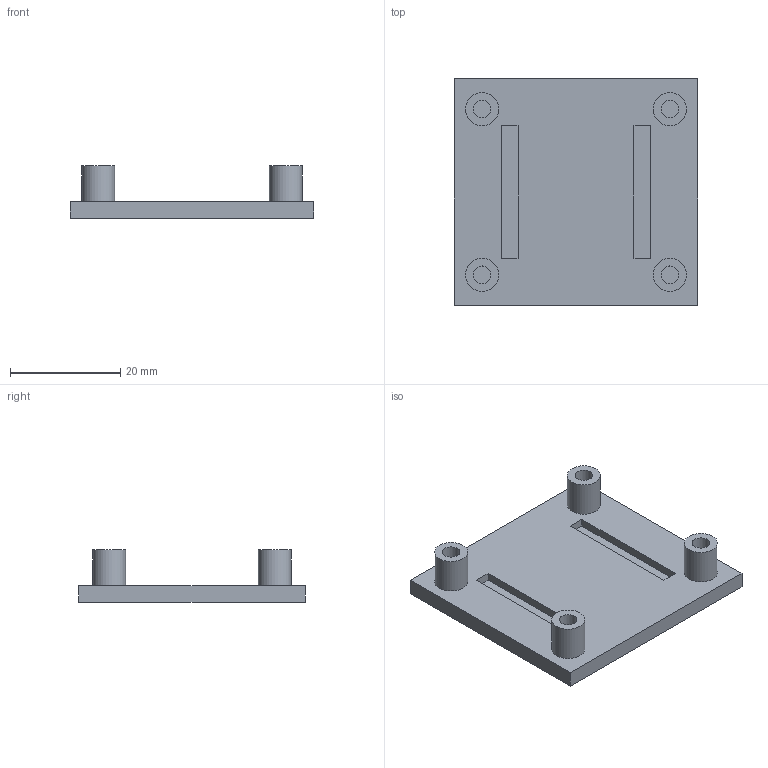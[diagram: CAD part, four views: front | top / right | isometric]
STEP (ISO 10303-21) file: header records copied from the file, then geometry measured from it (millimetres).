
FILE_DESCRIPTION(('Open CASCADE Model'),'2;1');
FILE_NAME('Open CASCADE Shape Model','2026-09-10T23:36:53',('Author'),( 'Open CASCADE'),'Open CASCADE STEP processor 7.9','Open CASCADE 7.9' ,'Unknown');
FILE_SCHEMA(('AUTOMOTIVE_DESIGN { 1 0 10303 214 1 1 1 1 }'));
Length unit declared in the file: millimetre
Products named in the file (1): Open CASCADE STEP translator 7.9 6
Bounding box: 44 x 41 x 9.5 mm (x, y, z)
Volume: 5673.8 mm3; surface area: 5091.8 mm2
Topology: 1 solids, 1 shells, 32 faces, 60 edges, 40 vertices
Faces by surface type: plane 24, cylinder 8
Full cylindrical faces by diameter (mm): 3.2 x4, 6 x4
Entity records: 1598 total; most frequent: CARTESIAN_POINT 317, DIRECTION 238, LINE 132, VECTOR 132, ORIENTED_EDGE 120, PCURVE 120, DEFINITIONAL_REPRESENTATION 120, EDGE_CURVE 60
